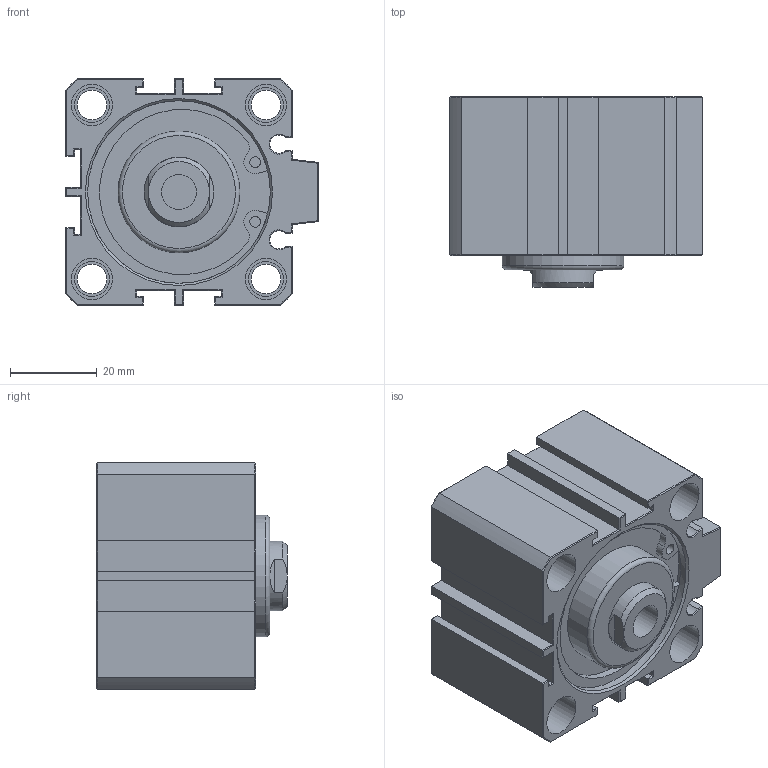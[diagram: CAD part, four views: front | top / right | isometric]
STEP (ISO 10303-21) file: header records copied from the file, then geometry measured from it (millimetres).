
FILE_DESCRIPTION(/* description */ (''),/* implementation_level */ '2;1');
FILE_NAME(/* name */ 'AJC-SD40X10N',/* time_stamp */ '2019-07-04T10:07:51+08:00',/* author */ ('JEFF HUANG'),/* organization */ ('TAIWAN AMAC CLAMP INDUSTRIAL CO., LTD.'),/* preprocessor_version */ 'ST-DEVELOPER v16.7',/* originating_system */ 'DEX',/* authorisation */ $);
FILE_SCHEMA (('AUTOMOTIVE_DESIGN {1 0 10303 214 3 1 1}'));
Length unit declared in the file: millimetre
Products named in the file (1): AJC-SD40X10N
Bounding box: 58 x 43.8 x 52 mm (x, y, z)
Volume: 81077 mm3; surface area: 22273.4 mm2
Topology: 1 solids, 1 shells, 263 faces, 573 edges, 340 vertices
Faces by surface type: plane 192, cylinder 51, cone 18, torus 2
Full cylindrical faces by diameter (mm): 2.5 x4, 6.8 x4, 8 x9, 9.147 x2, 9.5 x8, 28 x1, 29 x1, 42 x2
Entity records: 8693 total; most frequent: CARTESIAN_POINT 1220, DIRECTION 1162, ORIENTED_EDGE 1068, EDGE_CURVE 534, AXIS2_PLACEMENT_3D 392, LINE 378, VECTOR 378, VERTEX_POINT 338
